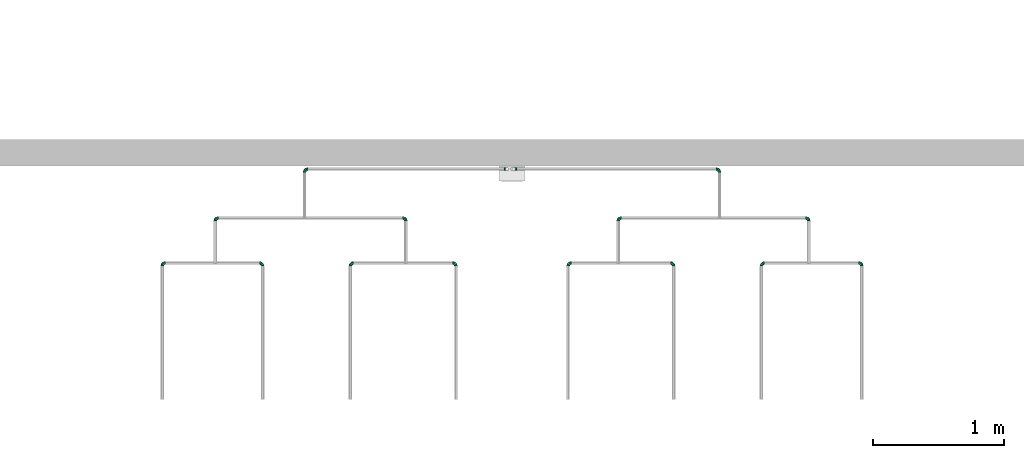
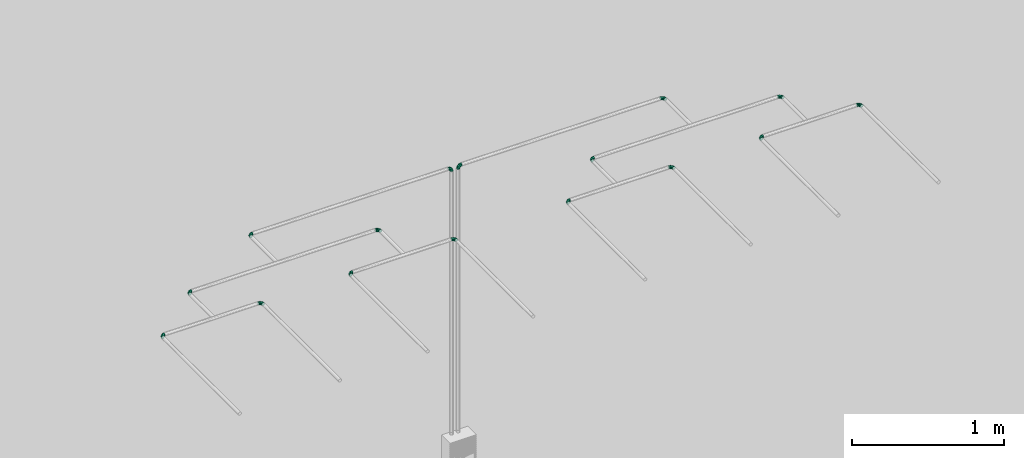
# One storey, part 25 of 197: 16 flow fittings.
"""IFC2X3 building model written with IfcOpenShell, lengths in metres."""

from ifc_helpers import new_model, entity, si_unit, converted_unit, direction, frame, origin, place, context, subcontext, project, spatial, faceted_brep, source, transform, mapped, material, type_object, type_shapes, element, save


model = new_model("IFC2X3")

# Units and contexts
model_context = context("Model", 3, precision=1e-05, world=origin(), true_north=direction((6.123031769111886e-17, 1.0)))
body_context = subcontext(model_context, "Body", "Model", "MODEL_VIEW")
ifc_project = project(units=[si_unit("LENGTHUNIT", "METRE"), converted_unit("PLANEANGLEUNIT", "DEGREE", entity("IfcPlaneAngleMeasure", 0.017453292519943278), si_unit("PLANEANGLEUNIT", "RADIAN"), dimensions=[0, 0, 0, 0, 0, 0, 0]), si_unit("AREAUNIT", "SQUARE_METRE")], contexts=[model_context])

# Site, building, storey
site_placement = place(None, origin())
site = spatial("IfcSite", under=ifc_project, at=site_placement, Name="Default", CompositionType="ELEMENT")
building_placement = place(site_placement, origin())
building = spatial("IfcBuilding", under=site, at=building_placement, CompositionType="ELEMENT")
storey_placement = place(building_placement, origin())
storey = spatial("IfcBuildingStorey", under=building, at=storey_placement, Name="Niveau 0", CompositionType="ELEMENT", Elevation=0.0)

# Flow fittings
ifc_material = material(Name="<Unnamed>")
duct_fitting_type_1 = type_object("IfcDuctFittingType", Name="Coude circulaire:Tubulure-Aspiration", PredefinedType="NOTDEFINED", material=ifc_material)
shared_shape_1 = source(origin(), body_context, "Body", "Brep", [
    faceted_brep([(-0.012499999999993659, 0.0033493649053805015, 0.012499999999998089), (-0.016919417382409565, 0.011004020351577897, 0.008838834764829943), (-0.02499999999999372, 0.008838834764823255, 0.008838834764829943), (-0.024999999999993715, 0.0, 0.012499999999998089), (-0.018749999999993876, 0.01417468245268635, 0.0), (-0.02499999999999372, 0.012499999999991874, 0.0), (-0.016919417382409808, 0.011004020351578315, -0.008838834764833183), (-0.02499999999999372, 0.008838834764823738, -0.008838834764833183), (-0.012499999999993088, 0.0033493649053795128, -0.012500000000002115), (-0.024999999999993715, 0.0, -0.012500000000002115), (-0.008080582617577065, -0.004305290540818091, -0.008838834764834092), (-0.02499999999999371, -0.008838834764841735, -0.008838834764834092), (-0.006249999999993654, -0.007475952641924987, 0.0), (-0.02499999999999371, -0.012500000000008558, 0.0), (-0.008080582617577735, -0.004305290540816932, 0.008838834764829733), (-0.02499999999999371, -0.008838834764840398, 0.008838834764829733), (-0.00334936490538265, 0.012499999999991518, 0.012499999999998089), (-0.01100402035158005, 0.016919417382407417, 0.008838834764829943), (-0.014174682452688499, 0.01874999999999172, 0.0), (-0.011004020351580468, 0.016919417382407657, -0.008838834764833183), (-0.003349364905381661, 0.012499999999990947, -0.012500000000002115), (0.004305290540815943, 0.008080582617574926, -0.008838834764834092), (0.007475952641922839, 0.006249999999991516, 0.0), (0.004305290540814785, 0.008080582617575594, 0.008838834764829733), (0.0, 0.02499999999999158, 0.012499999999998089), (-0.008838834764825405, 0.024999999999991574, 0.008838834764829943), (-0.012499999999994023, 0.024999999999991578, 0.0), (-0.008838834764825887, 0.024999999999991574, -0.008838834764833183), (0.0, 0.02499999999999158, -0.012500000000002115), (0.008838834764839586, 0.024999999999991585, -0.008838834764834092), (0.012500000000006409, 0.02499999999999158, 0.0), (0.008838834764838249, 0.024999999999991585, 0.008838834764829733)], [[[0, 1, 2, 3]], [[1, 4, 5, 2]], [[4, 6, 7, 5]], [[6, 8, 9, 7]], [[8, 10, 11, 9]], [[10, 12, 13, 11]], [[12, 14, 15, 13]], [[14, 0, 3, 15]], [[16, 17, 1, 0]], [[17, 18, 4, 1]], [[18, 19, 6, 4]], [[19, 20, 8, 6]], [[20, 21, 10, 8]], [[21, 22, 12, 10]], [[22, 23, 14, 12]], [[23, 16, 0, 14]], [[24, 25, 17, 16]], [[25, 26, 18, 17]], [[26, 27, 19, 18]], [[27, 28, 20, 19]], [[28, 29, 21, 20]], [[29, 30, 22, 21]], [[30, 31, 23, 22]], [[31, 24, 16, 23]], [[3, 2, 5, 7, 9, 11, 13, 15]], [[31, 30, 29, 28, 27, 26, 25, 24]]]),
])
type_shapes(duct_fitting_type_1, [shared_shape_1])
for number, where, z_axis, x_axis, name in (
    (1, (-504.885595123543, -24.660579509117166, 3.9369999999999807), (0.0, -1.0, 0.0), (0.0, 0.0, 1.0), "Coude circulaire:Tubulure-Aspiration"),
    (2, (-506.4275951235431, -24.660579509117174, 3.9369999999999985), (0.0, 0.0, 1.0), (-1.0, 0.0, 0.0), "Coude circulaire:Tubulure-Aspiration"),
    (3, (-506.7461616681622, -25.37457950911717, 3.9369999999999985), (0.0, 0.0, 1.0), (0.0, 1.0, 0.0), "Coude circulaire:Tubulure-Aspiration"),
    (4, (-507.5101616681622, -25.374579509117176, 3.9369999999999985), (0.0, 0.0, 1.0), (-1.0, 0.0, 0.0), "Coude circulaire:Tubulure-Aspiration"),
    (5, (-505.2751616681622, -25.374579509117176, 3.9369999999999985), (0.0, 0.0, 1.0), (0.0, 1.0, 0.0), "Coude circulaire:Tubulure-Aspiration"),
    (6, (-506.0791616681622, -25.37457950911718, 3.9369999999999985), (0.0, 0.0, 1.0), (-1.0, 0.0, 0.0), "Coude circulaire:Tubulure-Aspiration"),
    (7, (-507.1071226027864, -25.032579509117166, 3.9369999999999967), (0.0, 0.0, 1.0), (-1.0, 0.0, 0.0), "Coude circulaire:Tubulure-Aspiration"),
    (8, (-505.65612260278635, -25.032579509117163, 3.9369999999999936), (0.0, 0.0, 1.0), (0.0, 1.0, 0.0), "Coude circulaire:Tubulure-Aspiration"),
    (9, (-504.835595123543, -24.660579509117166, 3.9369999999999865), (0.0, 1.0, 0.0), (0.0, 0.0, 1.0), "Coude circulaire:Tubulure-Aspiration"),
    (10, (-503.2695951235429, -24.660579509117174, 3.937000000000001), (0.0, 0.0, 1.0), (0.0, 1.0, 0.0), "Coude circulaire:Tubulure-Aspiration"),
):
    element("IfcFlowFitting", number, at=place(storey_placement, frame(where, z_axis=z_axis, x_axis=x_axis)), inside=storey, type_object=duct_fitting_type_1, material=ifc_material, Name=name, ObjectType="Coude circulaire:Tubulure-Aspiration", context=body_context, shape_type="MappedRepresentation", body=[
        mapped(shared_shape_1, transform((0.0, 0.0, 0.0), scale=1.0)),
    ])
duct_fitting_type_2 = type_object("IfcDuctFittingType", Name="Coude circulaire:Tubulure-Aspiration", PredefinedType="NOTDEFINED", material=ifc_material)
shared_shape_2 = source(origin(), body_context, "Body", "Brep", [
    faceted_brep([(-0.012499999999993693, -0.003349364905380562, 0.012499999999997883), (-0.008080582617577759, 0.004305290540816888, 0.008838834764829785), (-0.02499999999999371, 0.008838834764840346, 0.008838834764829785), (-0.024999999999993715, 0.0, 0.012499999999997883), (-0.00624999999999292, 0.007475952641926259, 0.0), (-0.02499999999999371, 0.012500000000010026, 0.0), (-0.008080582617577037, 0.00430529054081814, -0.008838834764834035), (-0.02499999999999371, 0.008838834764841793, -0.008838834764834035), (-0.012499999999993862, -0.0033493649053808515, -0.012500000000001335), (-0.024999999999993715, 0.0, -0.012500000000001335), (-0.016919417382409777, -0.011004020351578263, -0.00883883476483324), (-0.02499999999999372, -0.008838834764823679, -0.00883883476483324), (-0.018749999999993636, -0.014174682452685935, 0.0), (-0.02499999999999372, -0.012499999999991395, 0.0), (-0.016919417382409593, -0.011004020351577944, 0.008838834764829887), (-0.02499999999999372, -0.008838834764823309, 0.008838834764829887), (-0.0033493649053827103, -0.012499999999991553, 0.012499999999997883), (0.00430529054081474, -0.008080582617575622, 0.008838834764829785), (0.00747595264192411, -0.006249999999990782, 0.0), (0.0043052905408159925, -0.008080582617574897, -0.008838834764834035), (-0.003349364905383, -0.01249999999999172, -0.012500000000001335), (-0.011004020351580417, -0.01691941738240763, -0.00883883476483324), (-0.014174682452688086, -0.018749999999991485, 0.0), (-0.011004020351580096, -0.016919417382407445, 0.008838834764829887), (0.0, -0.02499999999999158, 0.012499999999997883), (0.008838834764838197, -0.024999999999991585, 0.008838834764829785), (0.012500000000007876, -0.02499999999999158, 0.0), (0.008838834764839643, -0.024999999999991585, -0.008838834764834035), (0.0, -0.02499999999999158, -0.012500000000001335), (-0.008838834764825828, -0.024999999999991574, -0.00883883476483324), (-0.012499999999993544, -0.024999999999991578, 0.0), (-0.008838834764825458, -0.024999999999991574, 0.008838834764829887)], [[[0, 1, 2, 3]], [[1, 4, 5, 2]], [[4, 6, 7, 5]], [[6, 8, 9, 7]], [[8, 10, 11, 9]], [[10, 12, 13, 11]], [[12, 14, 15, 13]], [[14, 0, 3, 15]], [[16, 17, 1, 0]], [[17, 18, 4, 1]], [[18, 19, 6, 4]], [[19, 20, 8, 6]], [[20, 21, 10, 8]], [[21, 22, 12, 10]], [[22, 23, 14, 12]], [[23, 16, 0, 14]], [[24, 25, 17, 16]], [[25, 26, 18, 17]], [[26, 27, 19, 18]], [[27, 28, 20, 19]], [[28, 29, 21, 20]], [[29, 30, 22, 21]], [[30, 31, 23, 22]], [[31, 24, 16, 23]], [[3, 2, 5, 7, 9, 11, 13, 15]], [[31, 30, 29, 28, 27, 26, 25, 24]]]),
])
type_shapes(duct_fitting_type_2, [shared_shape_2])
flow_fitting_1_placement = place(storey_placement, frame((-502.9510285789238, -25.37457950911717, 3.9369999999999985), z_axis=(0.0, 0.0, 1.0), x_axis=(0.0, 1.0, 0.0)))
element("IfcFlowFitting", 11, at=flow_fitting_1_placement, inside=storey, type_object=duct_fitting_type_2, material=ifc_material, Name="Coude circulaire:Tubulure-Aspiration", ObjectType="Coude circulaire:Tubulure-Aspiration", context=body_context, shape_type="MappedRepresentation", body=[
    mapped(shared_shape_2, transform((0.0, 0.0, 0.0), scale=1.0)),
])
flow_fitting_2_placement = place(storey_placement, frame((-502.1870285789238, -25.374579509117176, 3.9369999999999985)))
element("IfcFlowFitting", 12, at=flow_fitting_2_placement, inside=storey, type_object=duct_fitting_type_2, material=ifc_material, Name="Coude circulaire:Tubulure-Aspiration", ObjectType="Coude circulaire:Tubulure-Aspiration", context=body_context, shape_type="MappedRepresentation", body=[
    mapped(shared_shape_2, transform((0.0, 0.0, 0.0), scale=1.0)),
])
flow_fitting_3_placement = place(storey_placement, frame((-504.4220285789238, -25.374579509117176, 3.9369999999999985), z_axis=(0.0, 0.0, 1.0), x_axis=(0.0, 1.0, 0.0)))
element("IfcFlowFitting", 13, at=flow_fitting_3_placement, inside=storey, type_object=duct_fitting_type_2, material=ifc_material, Name="Coude circulaire:Tubulure-Aspiration", ObjectType="Coude circulaire:Tubulure-Aspiration", context=body_context, shape_type="MappedRepresentation", body=[
    mapped(shared_shape_2, transform((0.0, 0.0, 0.0), scale=1.0)),
])
for number, where, name in (
    (14, (-503.61802857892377, -25.37457950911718, 3.9369999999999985), "Coude circulaire:Tubulure-Aspiration"),
    (15, (-502.5900676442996, -25.032579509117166, 3.9369999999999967), "Coude circulaire:Tubulure-Aspiration"),
):
    element("IfcFlowFitting", number, at=place(storey_placement, frame(where)), inside=storey, type_object=duct_fitting_type_2, material=ifc_material, Name=name, ObjectType="Coude circulaire:Tubulure-Aspiration", context=body_context, shape_type="MappedRepresentation", body=[
        mapped(shared_shape_2, transform((0.0, 0.0, 0.0), scale=1.0)),
    ])
flow_fitting_4_placement = place(storey_placement, frame((-504.04106764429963, -25.032579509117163, 3.9369999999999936), z_axis=(0.0, 0.0, 1.0), x_axis=(0.0, 1.0, 0.0)))
element("IfcFlowFitting", 16, at=flow_fitting_4_placement, inside=storey, type_object=duct_fitting_type_2, material=ifc_material, Name="Coude circulaire:Tubulure-Aspiration", ObjectType="Coude circulaire:Tubulure-Aspiration", context=body_context, shape_type="MappedRepresentation", body=[
    mapped(shared_shape_2, transform((0.0, 0.0, 0.0), scale=1.0)),
])

save(model, "model.ifc")
